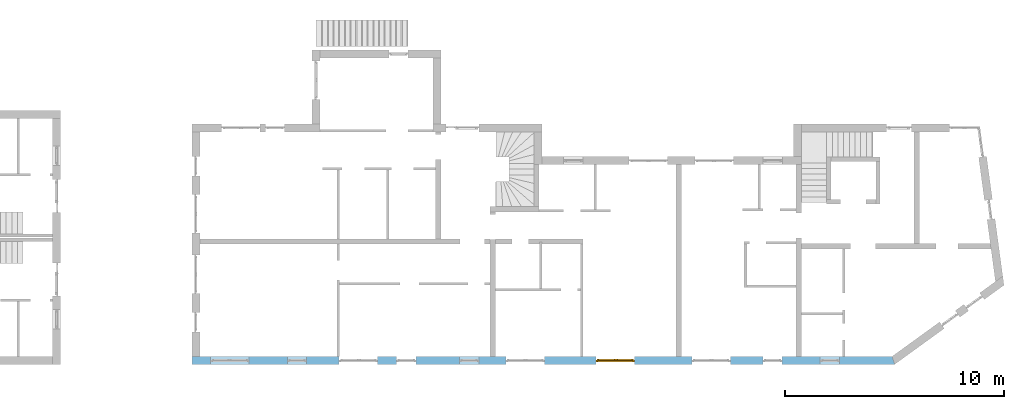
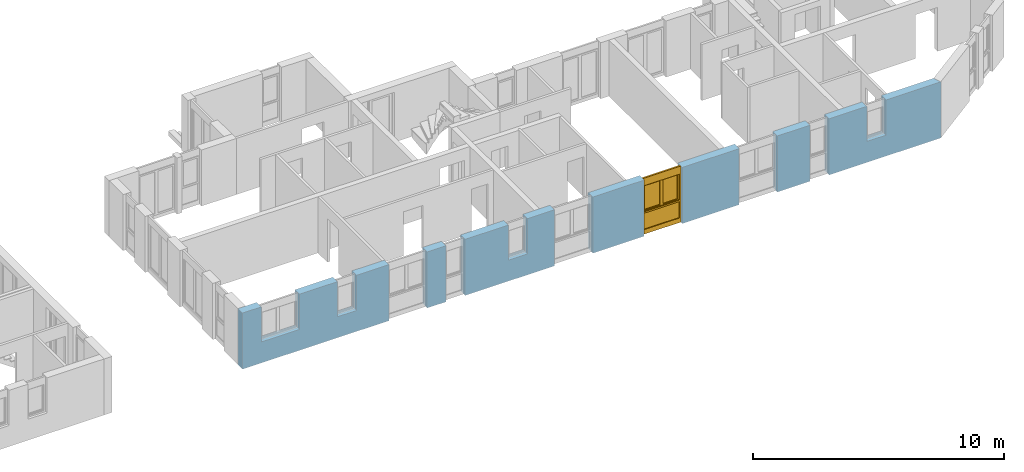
# One storey, part 25 of 41: 1 window, 10 openings, plus 1 element that does not belong to this part.
"""IFC2X3 building model written with IfcOpenShell, lengths in millimetres."""

from ifc_helpers import new_model, entity, si_unit, converted_unit, frame, frame_2d, origin, origin_with_axes, place, context, subcontext, project, spatial, polyline, rectangle, outline, extrude, faceted_brep, material, layer, layer_set, layer_usage, type_object, element, fill, save


model = new_model("IFC2X3")

# Units and contexts
model_context = context("Model", 3, precision=1e-05, world=origin())
body_context = subcontext(model_context, "Body", "Model", "MODEL_VIEW")
ifc_project = project(units=[si_unit("LENGTHUNIT", "METRE", prefix="MILLI"), converted_unit("PLANEANGLEUNIT", "DEGREE", entity("IfcPlaneAngleMeasure", 0.0174532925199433), si_unit("PLANEANGLEUNIT", "RADIAN"), dimensions=[0, 0, 0, 0, 0, 0, 0]), si_unit("AREAUNIT", "SQUARE_METRE"), si_unit("VOLUMEUNIT", "CUBIC_METRE")], contexts=[model_context])

# Building, storey
building_placement = place(None, origin())
building = spatial("IfcBuilding", under=ifc_project, at=building_placement, Name="Gebäude", CompositionType="ELEMENT")
storey_placement = place(building_placement, frame((0.0, 0.0, -200.0), z_axis=(0.0, 0.0, 1.0), x_axis=(1.0, 0.0, 0.0)))
storey = spatial("IfcBuildingStorey", under=building, at=storey_placement, Name="EG.- Grundriss", CompositionType="ELEMENT", Elevation=-200.0)

# Wall, openings, window
ifc_material_1 = material(Name="Poroton")
ifc_layer = layer(ifc_material_1, 365.0000000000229)
ifc_layer_set = layer_set([ifc_layer])
ifc_layer_usage = layer_usage(ifc_layer_set, "AXIS2", "POSITIVE", 0.0)
wall_placement = place(storey_placement, frame((148357.7928067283, 125274.8877324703, 0.0), z_axis=(0.0, 0.0, 1.0), x_axis=(1.0, -2.749268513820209e-11, 0.0)))
wall = element("IfcWallStandardCase", 1, at=wall_placement, inside=storey, material=ifc_layer_usage, Name="<Unnamed Element>", context=body_context, shape_type="SweptSolid", body=[
    extrude(outline(polyline([(0.0, 0.0), (32144.99999877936, 0.0), (32026.74038666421, 365.0000000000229), (-1.003483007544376e-08, 365.0), (0.0, 0.0)])), origin_with_axes(), (0.0, 0.0, 1.0), 2730.0),
])
opening_1_placement = place(wall_placement, frame((28740.29648749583, -1.103025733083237e-10, 1020.0), z_axis=(0.0, 1.0, 0.0), x_axis=(0.0, 0.0, 1.0)))
element("IfcOpeningElement", 2, at=opening_1_placement, cuts=wall, Name="Fensteröffnung", ObjectType="Opening", context=body_context, shape_type="SweptSolid", body=[
    extrude(rectangle(XDim=1710.0, YDim=885.0, at=frame_2d((855.0, 442.5), x_axis=(1.0, 0.0))), origin_with_axes(), (0.0, 0.0, 1.0), 365.0000000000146),
])
opening_2_placement = place(wall_placement, frame((26115.29648749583, -1.048456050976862e-10, 0.0), z_axis=(0.0, 1.0, 0.0), x_axis=(0.0, 0.0, 1.0)))
element("IfcOpeningElement", 3, at=opening_2_placement, cuts=wall, Name="Fensteröffnung", ObjectType="Opening", context=body_context, shape_type="SweptSolid", body=[
    extrude(rectangle(XDim=2730.0, YDim=885.0, at=frame_2d((1365.0, 442.5), x_axis=(1.0, 0.0))), origin_with_axes(), (0.0, 0.0, 1.0), 365.0000000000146),
])
opening_3_placement = place(wall_placement, frame((22865.29648749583, -7.937975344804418e-11, 0.0), z_axis=(0.0, 1.0, 0.0), x_axis=(0.0, 0.0, 1.0)))
element("IfcOpeningElement", 4, at=opening_3_placement, cuts=wall, Name="Fensteröffnung", ObjectType="Opening", context=body_context, shape_type="SweptSolid", body=[
    extrude(rectangle(XDim=2730.0, YDim=1760.0, at=frame_2d((1365.0, 880.0), x_axis=(1.0, 0.0))), origin_with_axes(), (0.0, 0.0, 1.0), 365.0000000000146),
])
opening_4_placement = place(wall_placement, frame((18490.51063065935, -4.984640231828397e-11, 0.0), z_axis=(0.0, 1.0, 0.0), x_axis=(0.0, 0.0, 1.0)))
opening_4 = element("IfcOpeningElement", 5, at=opening_4_placement, cuts=wall, Name="Fensteröffnung", ObjectType="Opening", context=body_context, shape_type="SweptSolid", body=[
    extrude(rectangle(XDim=2730.0, YDim=1760.0, at=frame_2d((1365.0, 880.0), x_axis=(1.0, 0.0))), origin_with_axes(), (0.0, 0.0, 1.0), 365.0000000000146),
])
opening_5_placement = place(wall_placement, frame((14365.26291871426, -7.302655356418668e-11, 0.0), z_axis=(0.0, 1.0, 0.0), x_axis=(0.0, 0.0, 1.0)))
element("IfcOpeningElement", 6, at=opening_5_placement, cuts=wall, Name="Fensteröffnung", ObjectType="Opening", context=body_context, shape_type="SweptSolid", body=[
    extrude(rectangle(XDim=2730.0, YDim=1760.0, at=frame_2d((1365.0, 880.0), x_axis=(1.0, 0.0))), origin_with_axes(), (0.0, 0.0, 1.0), 365.0000000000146),
])
opening_6_placement = place(wall_placement, frame((12240.0, -5.296897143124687e-11, 1020.0), z_axis=(0.0, 1.0, 0.0), x_axis=(0.0, 0.0, 1.0)))
element("IfcOpeningElement", 7, at=opening_6_placement, cuts=wall, Name="Fensteröffnung", ObjectType="Opening", context=body_context, shape_type="SweptSolid", body=[
    extrude(rectangle(XDim=1710.0, YDim=885.0, at=frame_2d((855.0, 442.5), x_axis=(1.0, 0.0))), origin_with_axes(), (0.0, 0.0, 1.0), 365.0000000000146),
])
opening_7_placement = place(wall_placement, frame((9365.0, -3.659806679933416e-11, 0.0), z_axis=(0.0, 1.0, 0.0), x_axis=(0.0, 0.0, 1.0)))
element("IfcOpeningElement", 8, at=opening_7_placement, cuts=wall, Name="Fensteröffnung", ObjectType="Opening", context=body_context, shape_type="SweptSolid", body=[
    extrude(rectangle(XDim=2730.0, YDim=885.0, at=frame_2d((1365.0, 442.5), x_axis=(1.0, 0.0))), origin_with_axes(), (0.0, 0.0, 1.0), 365.0000000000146),
])
opening_8_placement = place(wall_placement, frame((6740.0, -3.114109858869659e-11, 0.0), z_axis=(0.0, 1.0, 0.0), x_axis=(0.0, 0.0, 1.0)))
element("IfcOpeningElement", 9, at=opening_8_placement, cuts=wall, Name="Fensteröffnung", ObjectType="Opening", context=body_context, shape_type="SweptSolid", body=[
    extrude(rectangle(XDim=2730.0, YDim=1760.0, at=frame_2d((1365.0, 880.0), x_axis=(1.0, 0.0))), origin_with_axes(), (0.0, 0.0, 1.0), 365.0000000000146),
])
opening_9_placement = place(wall_placement, frame((4365.0, -7.494236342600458e-12, 1020.0), z_axis=(0.0, 1.0, 0.0), x_axis=(0.0, 0.0, 1.0)))
element("IfcOpeningElement", 10, at=opening_9_placement, cuts=wall, Name="Fensteröffnung", ObjectType="Opening", context=body_context, shape_type="SweptSolid", body=[
    extrude(rectangle(XDim=1710.0, YDim=885.0, at=frame_2d((855.0, 442.5), x_axis=(1.0, 0.0))), origin_with_axes(), (0.0, 0.0, 1.0), 365.0000000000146),
])
opening_10_placement = place(wall_placement, frame((865.0, -2.182787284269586e-13, 1020.0), z_axis=(0.0, 1.0, 0.0), x_axis=(0.0, 0.0, 1.0)))
element("IfcOpeningElement", 11, at=opening_10_placement, cuts=wall, Name="Fensteröffnung", ObjectType="Opening", context=body_context, shape_type="SweptSolid", body=[
    extrude(rectangle(XDim=1710.0, YDim=1760.0, at=frame_2d((854.9999999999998, 880.0), x_axis=(1.0, 0.0))), origin_with_axes(), (0.0, 0.0, 1.0), 365.0000000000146),
])
ifc_material_2 = material()
window_style = type_object("IfcWindowStyle", Name="Fenster", ConstructionType="NOTDEFINED", OperationType="USERDEFINED", ParameterTakesPrecedence=False, Sizeable=False)
window_placement = place(opening_4_placement, frame((0.0, 0.0, 0.0), z_axis=(1.0, 0.0, 0.0), x_axis=(0.0, 1.0, 0.0)))
window = element("IfcWindow", 12, at=window_placement, inside=storey, type_object=window_style, material=ifc_material_2, Name="Fenster", OverallHeight=2730.0, OverallWidth=1760.0, context=body_context, shape_type="Brep", body=[
    faceted_brep([(-1.221113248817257e-08, 199.999999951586, 2730.0), (-1.221113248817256e-08, 199.9999999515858, -2.449293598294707e-15), (69.99999998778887, 199.9999999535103, -2.449293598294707e-15), (69.99999998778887, 199.9999999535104, 2730.0), (-1.001171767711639e-08, 119.9999999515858, 2.449293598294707e-15), (-1.00117176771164e-08, 119.999999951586, 2730.0), (69.99999998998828, 119.9999999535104, 2730.0), (69.99999998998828, 119.9999999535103, 2.449293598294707e-15), (-1.221113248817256e-08, 199.9999999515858, -2.449293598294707e-15), (-1.221113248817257e-08, 199.999999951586, 2730.0), (-1.00117176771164e-08, 119.999999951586, 2730.0), (-1.001171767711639e-08, 119.9999999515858, 2.449293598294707e-15), (69.99999998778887, 199.9999999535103, -2.449293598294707e-15), (-1.221113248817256e-08, 199.9999999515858, -2.449293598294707e-15), (-1.001171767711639e-08, 119.9999999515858, 2.449293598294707e-15), (69.99999998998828, 119.9999999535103, 2.449293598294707e-15), (69.99999998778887, 199.9999999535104, 2730.0), (69.99999998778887, 199.9999999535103, -2.449293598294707e-15), (69.99999998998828, 119.9999999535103, 2.449293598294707e-15), (69.99999998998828, 119.9999999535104, 2730.0), (-1.221113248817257e-08, 199.999999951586, 2730.0), (69.99999998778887, 199.9999999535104, 2730.0), (69.99999998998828, 119.9999999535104, 2730.0), (-1.00117176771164e-08, 119.999999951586, 2730.0)], [[[0, 1, 2, 3]], [[4, 5, 6, 7]], [[8, 9, 10, 11]], [[12, 13, 14, 15]], [[16, 17, 18, 19]], [[20, 21, 22, 23]]], orient=[[False], [False], [False], [False], [False], [False]]),
    faceted_brep([(1689.999999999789, 199.9999999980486, 2730.0), (1689.999999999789, 199.9999999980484, -2.449293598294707e-15), (1759.999999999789, 199.9999999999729, -2.449293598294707e-15), (1759.999999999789, 199.9999999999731, 2730.0), (1690.000000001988, 119.9999999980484, 2.449293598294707e-15), (1690.000000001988, 119.9999999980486, 2730.0), (1760.000000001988, 119.9999999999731, 2730.0), (1760.000000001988, 119.9999999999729, 2.449293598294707e-15), (1689.999999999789, 199.9999999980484, -2.449293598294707e-15), (1689.999999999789, 199.9999999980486, 2730.0), (1690.000000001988, 119.9999999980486, 2730.0), (1690.000000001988, 119.9999999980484, 2.449293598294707e-15), (1759.999999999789, 199.9999999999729, -2.449293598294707e-15), (1689.999999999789, 199.9999999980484, -2.449293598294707e-15), (1690.000000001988, 119.9999999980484, 2.449293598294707e-15), (1760.000000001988, 119.9999999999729, 2.449293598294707e-15), (1759.999999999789, 199.9999999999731, 2730.0), (1759.999999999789, 199.9999999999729, -2.449293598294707e-15), (1760.000000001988, 119.9999999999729, 2.449293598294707e-15), (1760.000000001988, 119.9999999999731, 2730.0), (1689.999999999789, 199.9999999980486, 2730.0), (1759.999999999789, 199.9999999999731, 2730.0), (1760.000000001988, 119.9999999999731, 2730.0), (1690.000000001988, 119.9999999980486, 2730.0)], [[[0, 1, 2, 3]], [[4, 5, 6, 7]], [[8, 9, 10, 11]], [[12, 13, 14, 15]], [[16, 17, 18, 19]], [[20, 21, 22, 23]]], orient=[[False], [False], [False], [False], [False], [False]]),
    faceted_brep([(69.99999998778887, 199.9999999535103, 220.0), (69.99999998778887, 199.9999999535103, -2.449293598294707e-15), (1689.999999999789, 199.9999999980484, -2.449293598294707e-15), (1689.999999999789, 199.9999999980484, 220.0), (69.99999998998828, 119.9999999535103, 2.449293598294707e-15), (69.99999998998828, 119.9999999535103, 220.0), (1690.000000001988, 119.9999999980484, 220.0), (1690.000000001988, 119.9999999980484, 2.449293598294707e-15), (69.99999998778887, 199.9999999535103, -2.449293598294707e-15), (69.99999998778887, 199.9999999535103, 220.0), (69.99999998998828, 119.9999999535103, 220.0), (69.99999998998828, 119.9999999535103, 2.449293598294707e-15), (1689.999999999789, 199.9999999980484, -2.449293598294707e-15), (69.99999998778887, 199.9999999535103, -2.449293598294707e-15), (69.99999998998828, 119.9999999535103, 2.449293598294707e-15), (1690.000000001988, 119.9999999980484, 2.449293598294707e-15), (1689.999999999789, 199.9999999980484, 220.0), (1689.999999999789, 199.9999999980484, -2.449293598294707e-15), (1690.000000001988, 119.9999999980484, 2.449293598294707e-15), (1690.000000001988, 119.9999999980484, 220.0), (69.99999998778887, 199.9999999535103, 220.0), (1689.999999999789, 199.9999999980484, 220.0), (1690.000000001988, 119.9999999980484, 220.0), (69.99999998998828, 119.9999999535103, 220.0)], [[[0, 1, 2, 3]], [[4, 5, 6, 7]], [[8, 9, 10, 11]], [[12, 13, 14, 15]], [[16, 17, 18, 19]], [[20, 21, 22, 23]]], orient=[[False], [False], [False], [False], [False], [False]]),
    faceted_brep([(69.99999998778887, 199.9999999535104, 2730.0), (69.99999998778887, 199.9999999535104, 2360.0), (1689.999999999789, 199.9999999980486, 2360.0), (1689.999999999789, 199.9999999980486, 2730.0), (69.99999998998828, 119.9999999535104, 2360.0), (69.99999998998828, 119.9999999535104, 2730.0), (1690.000000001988, 119.9999999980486, 2730.0), (1690.000000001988, 119.9999999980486, 2360.0), (69.99999998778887, 199.9999999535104, 2360.0), (69.99999998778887, 199.9999999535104, 2730.0), (69.99999998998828, 119.9999999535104, 2730.0), (69.99999998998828, 119.9999999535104, 2360.0), (1689.999999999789, 199.9999999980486, 2360.0), (69.99999998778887, 199.9999999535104, 2360.0), (69.99999998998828, 119.9999999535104, 2360.0), (1690.000000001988, 119.9999999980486, 2360.0), (1689.999999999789, 199.9999999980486, 2730.0), (1689.999999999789, 199.9999999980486, 2360.0), (1690.000000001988, 119.9999999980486, 2360.0), (1690.000000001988, 119.9999999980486, 2730.0), (69.99999998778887, 199.9999999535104, 2730.0), (1689.999999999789, 199.9999999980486, 2730.0), (1690.000000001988, 119.9999999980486, 2730.0), (69.99999998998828, 119.9999999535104, 2730.0)], [[[0, 1, 2, 3]], [[4, 5, 6, 7]], [[8, 9, 10, 11]], [[12, 13, 14, 15]], [[16, 17, 18, 19]], [[20, 21, 22, 23]]], orient=[[False], [False], [False], [False], [False], [False]]),
    faceted_brep([(69.99999998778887, 199.9999999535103, 1090.0), (69.99999998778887, 199.9999999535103, 1020.0), (1689.999999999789, 199.9999999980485, 1020.0), (1689.999999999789, 199.9999999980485, 1090.0), (69.99999998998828, 119.9999999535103, 1020.0), (69.99999998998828, 119.9999999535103, 1090.0), (1690.000000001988, 119.9999999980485, 1090.0), (1690.000000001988, 119.9999999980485, 1020.0), (69.99999998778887, 199.9999999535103, 1020.0), (69.99999998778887, 199.9999999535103, 1090.0), (69.99999998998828, 119.9999999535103, 1090.0), (69.99999998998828, 119.9999999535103, 1020.0), (1689.999999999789, 199.9999999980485, 1020.0), (69.99999998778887, 199.9999999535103, 1020.0), (69.99999998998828, 119.9999999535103, 1020.0), (1690.000000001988, 119.9999999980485, 1020.0), (1689.999999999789, 199.9999999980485, 1090.0), (1689.999999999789, 199.9999999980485, 1020.0), (1690.000000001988, 119.9999999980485, 1020.0), (1690.000000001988, 119.9999999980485, 1090.0), (69.99999998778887, 199.9999999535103, 1090.0), (1689.999999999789, 199.9999999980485, 1090.0), (1690.000000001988, 119.9999999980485, 1090.0), (69.99999998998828, 119.9999999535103, 1090.0)], [[[0, 1, 2, 3]], [[4, 5, 6, 7]], [[8, 9, 10, 11]], [[12, 13, 14, 15]], [[16, 17, 18, 19]], [[20, 21, 22, 23]]], orient=[[False], [False], [False], [False], [False], [False]]),
    faceted_brep([(69.99999998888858, 159.9999999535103, 220.0), (1690.000000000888, 159.9999999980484, 220.0), (1690.000000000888, 159.9999999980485, 1020.0), (69.99999998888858, 159.9999999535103, 1020.0), (69.99999998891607, 158.9999999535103, 220.0), (69.99999998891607, 158.9999999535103, 1020.0), (1690.000000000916, 158.9999999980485, 1020.0), (1690.000000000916, 158.9999999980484, 220.0), (69.99999998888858, 159.9999999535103, 220.0), (69.99999998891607, 158.9999999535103, 220.0), (1690.000000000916, 158.9999999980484, 220.0), (1690.000000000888, 159.9999999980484, 220.0), (1690.000000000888, 159.9999999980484, 220.0), (1690.000000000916, 158.9999999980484, 220.0), (1690.000000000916, 158.9999999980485, 1020.0), (1690.000000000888, 159.9999999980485, 1020.0), (1690.000000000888, 159.9999999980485, 1020.0), (1690.000000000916, 158.9999999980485, 1020.0), (69.99999998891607, 158.9999999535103, 1020.0), (69.99999998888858, 159.9999999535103, 1020.0), (69.99999998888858, 159.9999999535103, 1020.0), (69.99999998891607, 158.9999999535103, 1020.0), (69.99999998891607, 158.9999999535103, 220.0), (69.99999998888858, 159.9999999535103, 220.0)], [[[0, 1, 2, 3]], [[4, 5, 6, 7]], [[8, 9, 10, 11]], [[12, 13, 14, 15]], [[16, 17, 18, 19]], [[20, 21, 22, 23]]], orient=[[False], [False], [False], [False], [False], [False]]),
    faceted_brep([(49.99999998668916, 239.9999999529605, 2380.0), (49.99999998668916, 239.9999999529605, 1070.0), (119.9999999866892, 239.999999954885, 1070.0), (119.9999999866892, 239.999999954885, 2380.0), (49.99999998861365, 169.9999999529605, 1070.0), (49.99999998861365, 169.9999999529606, 2380.0), (119.9999999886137, 169.999999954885, 2380.0), (119.9999999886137, 169.999999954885, 1070.0), (49.99999998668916, 239.9999999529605, 1070.0), (49.99999998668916, 239.9999999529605, 2380.0), (49.99999998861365, 169.9999999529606, 2380.0), (49.99999998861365, 169.9999999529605, 1070.0), (119.9999999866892, 239.999999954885, 1070.0), (49.99999998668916, 239.9999999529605, 1070.0), (49.99999998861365, 169.9999999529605, 1070.0), (119.9999999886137, 169.999999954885, 1070.0), (119.9999999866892, 239.999999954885, 2380.0), (119.9999999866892, 239.999999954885, 1070.0), (119.9999999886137, 169.999999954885, 1070.0), (119.9999999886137, 169.999999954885, 2380.0), (49.99999998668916, 239.9999999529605, 2380.0), (119.9999999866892, 239.999999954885, 2380.0), (119.9999999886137, 169.999999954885, 2380.0), (49.99999998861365, 169.9999999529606, 2380.0)], [[[0, 1, 2, 3]], [[4, 5, 6, 7]], [[8, 9, 10, 11]], [[12, 13, 14, 15]], [[16, 17, 18, 19]], [[20, 21, 22, 23]]], orient=[[False], [False], [False], [False], [False], [False]]),
    faceted_brep([(829.4999999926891, 239.9999999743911, 2380.0), (829.4999999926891, 239.999999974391, 1070.0), (899.4999999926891, 239.9999999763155, 1070.0), (899.4999999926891, 239.9999999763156, 2380.0), (829.4999999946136, 169.999999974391, 1070.0), (829.4999999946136, 169.9999999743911, 2380.0), (899.4999999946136, 169.9999999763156, 2380.0), (899.4999999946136, 169.9999999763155, 1070.0), (829.4999999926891, 239.999999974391, 1070.0), (829.4999999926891, 239.9999999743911, 2380.0), (829.4999999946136, 169.9999999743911, 2380.0), (829.4999999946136, 169.999999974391, 1070.0), (899.4999999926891, 239.9999999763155, 1070.0), (829.4999999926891, 239.999999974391, 1070.0), (829.4999999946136, 169.999999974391, 1070.0), (899.4999999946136, 169.9999999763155, 1070.0), (899.4999999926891, 239.9999999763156, 2380.0), (899.4999999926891, 239.9999999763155, 1070.0), (899.4999999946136, 169.9999999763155, 1070.0), (899.4999999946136, 169.9999999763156, 2380.0), (829.4999999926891, 239.9999999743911, 2380.0), (899.4999999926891, 239.9999999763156, 2380.0), (899.4999999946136, 169.9999999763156, 2380.0), (829.4999999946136, 169.9999999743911, 2380.0)], [[[0, 1, 2, 3]], [[4, 5, 6, 7]], [[8, 9, 10, 11]], [[12, 13, 14, 15]], [[16, 17, 18, 19]], [[20, 21, 22, 23]]], orient=[[False], [False], [False], [False], [False], [False]]),
    faceted_brep([(119.9999999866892, 239.999999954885, 1140.0), (119.9999999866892, 239.999999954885, 1070.0), (829.4999999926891, 239.999999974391, 1070.0), (829.4999999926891, 239.999999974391, 1140.0), (119.9999999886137, 169.999999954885, 1070.0), (119.9999999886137, 169.999999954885, 1140.0), (829.4999999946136, 169.999999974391, 1140.0), (829.4999999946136, 169.999999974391, 1070.0), (119.9999999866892, 239.999999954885, 1070.0), (119.9999999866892, 239.999999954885, 1140.0), (119.9999999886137, 169.999999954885, 1140.0), (119.9999999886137, 169.999999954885, 1070.0), (829.4999999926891, 239.999999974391, 1070.0), (119.9999999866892, 239.999999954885, 1070.0), (119.9999999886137, 169.999999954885, 1070.0), (829.4999999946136, 169.999999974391, 1070.0), (829.4999999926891, 239.999999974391, 1140.0), (829.4999999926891, 239.999999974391, 1070.0), (829.4999999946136, 169.999999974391, 1070.0), (829.4999999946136, 169.999999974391, 1140.0), (119.9999999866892, 239.999999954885, 1140.0), (829.4999999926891, 239.999999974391, 1140.0), (829.4999999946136, 169.999999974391, 1140.0), (119.9999999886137, 169.999999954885, 1140.0)], [[[0, 1, 2, 3]], [[4, 5, 6, 7]], [[8, 9, 10, 11]], [[12, 13, 14, 15]], [[16, 17, 18, 19]], [[20, 21, 22, 23]]], orient=[[False], [False], [False], [False], [False], [False]]),
    faceted_brep([(119.9999999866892, 239.999999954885, 2380.0), (119.9999999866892, 239.999999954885, 2310.0), (829.4999999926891, 239.9999999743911, 2310.0), (829.4999999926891, 239.9999999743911, 2380.0), (119.9999999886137, 169.999999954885, 2310.0), (119.9999999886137, 169.999999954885, 2380.0), (829.4999999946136, 169.9999999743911, 2380.0), (829.4999999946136, 169.9999999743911, 2310.0), (119.9999999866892, 239.999999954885, 2310.0), (119.9999999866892, 239.999999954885, 2380.0), (119.9999999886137, 169.999999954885, 2380.0), (119.9999999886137, 169.999999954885, 2310.0), (829.4999999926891, 239.9999999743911, 2310.0), (119.9999999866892, 239.999999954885, 2310.0), (119.9999999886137, 169.999999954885, 2310.0), (829.4999999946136, 169.9999999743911, 2310.0), (829.4999999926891, 239.9999999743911, 2380.0), (829.4999999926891, 239.9999999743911, 2310.0), (829.4999999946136, 169.9999999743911, 2310.0), (829.4999999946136, 169.9999999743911, 2380.0), (119.9999999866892, 239.999999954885, 2380.0), (829.4999999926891, 239.9999999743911, 2380.0), (829.4999999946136, 169.9999999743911, 2380.0), (119.9999999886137, 169.999999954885, 2380.0)], [[[0, 1, 2, 3]], [[4, 5, 6, 7]], [[8, 9, 10, 11]], [[12, 13, 14, 15]], [[16, 17, 18, 19]], [[20, 21, 22, 23]]], orient=[[False], [False], [False], [False], [False], [False]]),
    faceted_brep([(900.4999999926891, 239.9999999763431, 2380.0), (900.4999999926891, 239.999999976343, 1070.0), (970.4999999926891, 239.9999999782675, 1070.0), (970.4999999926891, 239.9999999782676, 2380.0), (900.4999999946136, 169.999999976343, 1070.0), (900.4999999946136, 169.9999999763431, 2380.0), (970.4999999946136, 169.9999999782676, 2380.0), (970.4999999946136, 169.9999999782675, 1070.0), (900.4999999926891, 239.999999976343, 1070.0), (900.4999999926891, 239.9999999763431, 2380.0), (900.4999999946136, 169.9999999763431, 2380.0), (900.4999999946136, 169.999999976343, 1070.0), (970.4999999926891, 239.9999999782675, 1070.0), (900.4999999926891, 239.999999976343, 1070.0), (900.4999999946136, 169.999999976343, 1070.0), (970.4999999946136, 169.9999999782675, 1070.0), (970.4999999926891, 239.9999999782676, 2380.0), (970.4999999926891, 239.9999999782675, 1070.0), (970.4999999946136, 169.9999999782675, 1070.0), (970.4999999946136, 169.9999999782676, 2380.0), (900.4999999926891, 239.9999999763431, 2380.0), (970.4999999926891, 239.9999999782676, 2380.0), (970.4999999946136, 169.9999999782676, 2380.0), (900.4999999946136, 169.9999999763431, 2380.0)], [[[0, 1, 2, 3]], [[4, 5, 6, 7]], [[8, 9, 10, 11]], [[12, 13, 14, 15]], [[16, 17, 18, 19]], [[20, 21, 22, 23]]], orient=[[False], [False], [False], [False], [False], [False]]),
    faceted_brep([(1639.999999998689, 239.9999999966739, 2380.0), (1639.999999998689, 239.9999999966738, 1070.0), (1709.999999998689, 239.9999999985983, 1070.0), (1709.999999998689, 239.9999999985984, 2380.0), (1640.000000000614, 169.9999999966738, 1070.0), (1640.000000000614, 169.9999999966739, 2380.0), (1710.000000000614, 169.9999999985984, 2380.0), (1710.000000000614, 169.9999999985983, 1070.0), (1639.999999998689, 239.9999999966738, 1070.0), (1639.999999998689, 239.9999999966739, 2380.0), (1640.000000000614, 169.9999999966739, 2380.0), (1640.000000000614, 169.9999999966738, 1070.0), (1709.999999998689, 239.9999999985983, 1070.0), (1639.999999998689, 239.9999999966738, 1070.0), (1640.000000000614, 169.9999999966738, 1070.0), (1710.000000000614, 169.9999999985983, 1070.0), (1709.999999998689, 239.9999999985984, 2380.0), (1709.999999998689, 239.9999999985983, 1070.0), (1710.000000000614, 169.9999999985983, 1070.0), (1710.000000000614, 169.9999999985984, 2380.0), (1639.999999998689, 239.9999999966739, 2380.0), (1709.999999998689, 239.9999999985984, 2380.0), (1710.000000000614, 169.9999999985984, 2380.0), (1640.000000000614, 169.9999999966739, 2380.0)], [[[0, 1, 2, 3]], [[4, 5, 6, 7]], [[8, 9, 10, 11]], [[12, 13, 14, 15]], [[16, 17, 18, 19]], [[20, 21, 22, 23]]], orient=[[False], [False], [False], [False], [False], [False]]),
    faceted_brep([(970.4999999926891, 239.9999999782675, 1140.0), (970.4999999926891, 239.9999999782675, 1070.0), (1639.999999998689, 239.9999999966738, 1070.0), (1639.999999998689, 239.9999999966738, 1140.0), (970.4999999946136, 169.9999999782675, 1070.0), (970.4999999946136, 169.9999999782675, 1140.0), (1640.000000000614, 169.9999999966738, 1140.0), (1640.000000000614, 169.9999999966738, 1070.0), (970.4999999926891, 239.9999999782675, 1070.0), (970.4999999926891, 239.9999999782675, 1140.0), (970.4999999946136, 169.9999999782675, 1140.0), (970.4999999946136, 169.9999999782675, 1070.0), (1639.999999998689, 239.9999999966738, 1070.0), (970.4999999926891, 239.9999999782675, 1070.0), (970.4999999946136, 169.9999999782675, 1070.0), (1640.000000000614, 169.9999999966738, 1070.0), (1639.999999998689, 239.9999999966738, 1140.0), (1639.999999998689, 239.9999999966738, 1070.0), (1640.000000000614, 169.9999999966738, 1070.0), (1640.000000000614, 169.9999999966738, 1140.0), (970.4999999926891, 239.9999999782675, 1140.0), (1639.999999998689, 239.9999999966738, 1140.0), (1640.000000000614, 169.9999999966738, 1140.0), (970.4999999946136, 169.9999999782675, 1140.0)], [[[0, 1, 2, 3]], [[4, 5, 6, 7]], [[8, 9, 10, 11]], [[12, 13, 14, 15]], [[16, 17, 18, 19]], [[20, 21, 22, 23]]], orient=[[False], [False], [False], [False], [False], [False]]),
    faceted_brep([(970.4999999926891, 239.9999999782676, 2380.0), (970.4999999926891, 239.9999999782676, 2310.0), (1639.999999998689, 239.9999999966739, 2310.0), (1639.999999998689, 239.9999999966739, 2380.0), (970.4999999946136, 169.9999999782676, 2310.0), (970.4999999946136, 169.9999999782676, 2380.0), (1640.000000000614, 169.9999999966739, 2380.0), (1640.000000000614, 169.9999999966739, 2310.0), (970.4999999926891, 239.9999999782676, 2310.0), (970.4999999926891, 239.9999999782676, 2380.0), (970.4999999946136, 169.9999999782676, 2380.0), (970.4999999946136, 169.9999999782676, 2310.0), (1639.999999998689, 239.9999999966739, 2310.0), (970.4999999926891, 239.9999999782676, 2310.0), (970.4999999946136, 169.9999999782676, 2310.0), (1640.000000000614, 169.9999999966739, 2310.0), (1639.999999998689, 239.9999999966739, 2380.0), (1639.999999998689, 239.9999999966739, 2310.0), (1640.000000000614, 169.9999999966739, 2310.0), (1640.000000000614, 169.9999999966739, 2380.0), (970.4999999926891, 239.9999999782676, 2380.0), (1639.999999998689, 239.9999999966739, 2380.0), (1640.000000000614, 169.9999999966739, 2380.0), (970.4999999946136, 169.9999999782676, 2380.0)], [[[0, 1, 2, 3]], [[4, 5, 6, 7]], [[8, 9, 10, 11]], [[12, 13, 14, 15]], [[16, 17, 18, 19]], [[20, 21, 22, 23]]], orient=[[False], [False], [False], [False], [False], [False]]),
    faceted_brep([(119.9999999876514, 204.999999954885, 1140.0), (829.4999999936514, 204.9999999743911, 1140.0), (829.4999999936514, 204.9999999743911, 2310.0), (119.9999999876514, 204.9999999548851, 2310.0), (119.9999999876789, 203.999999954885, 1140.0), (119.9999999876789, 203.9999999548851, 2310.0), (829.4999999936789, 203.9999999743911, 2310.0), (829.4999999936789, 203.9999999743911, 1140.0), (119.9999999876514, 204.999999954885, 1140.0), (119.9999999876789, 203.999999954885, 1140.0), (829.4999999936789, 203.9999999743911, 1140.0), (829.4999999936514, 204.9999999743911, 1140.0), (829.4999999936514, 204.9999999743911, 1140.0), (829.4999999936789, 203.9999999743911, 1140.0), (829.4999999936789, 203.9999999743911, 2310.0), (829.4999999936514, 204.9999999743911, 2310.0), (829.4999999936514, 204.9999999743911, 2310.0), (829.4999999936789, 203.9999999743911, 2310.0), (119.9999999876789, 203.9999999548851, 2310.0), (119.9999999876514, 204.9999999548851, 2310.0), (119.9999999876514, 204.9999999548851, 2310.0), (119.9999999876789, 203.9999999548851, 2310.0), (119.9999999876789, 203.999999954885, 1140.0), (119.9999999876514, 204.999999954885, 1140.0)], [[[0, 1, 2, 3]], [[4, 5, 6, 7]], [[8, 9, 10, 11]], [[12, 13, 14, 15]], [[16, 17, 18, 19]], [[20, 21, 22, 23]]], orient=[[False], [False], [False], [False], [False], [False]]),
    faceted_brep([(970.4999999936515, 204.9999999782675, 1140.0), (1639.999999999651, 204.9999999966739, 1140.0), (1639.999999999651, 204.9999999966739, 2310.0), (970.4999999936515, 204.9999999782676, 2310.0), (970.499999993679, 203.9999999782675, 1140.0), (970.499999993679, 203.9999999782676, 2310.0), (1639.999999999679, 203.9999999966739, 2310.0), (1639.999999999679, 203.9999999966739, 1140.0), (970.4999999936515, 204.9999999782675, 1140.0), (970.499999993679, 203.9999999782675, 1140.0), (1639.999999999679, 203.9999999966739, 1140.0), (1639.999999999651, 204.9999999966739, 1140.0), (1639.999999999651, 204.9999999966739, 1140.0), (1639.999999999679, 203.9999999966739, 1140.0), (1639.999999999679, 203.9999999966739, 2310.0), (1639.999999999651, 204.9999999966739, 2310.0), (1639.999999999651, 204.9999999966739, 2310.0), (1639.999999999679, 203.9999999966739, 2310.0), (970.499999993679, 203.9999999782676, 2310.0), (970.4999999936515, 204.9999999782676, 2310.0), (970.4999999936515, 204.9999999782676, 2310.0), (970.499999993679, 203.9999999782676, 2310.0), (970.499999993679, 203.9999999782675, 1140.0), (970.4999999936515, 204.9999999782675, 1140.0)], [[[0, 1, 2, 3]], [[4, 5, 6, 7]], [[8, 9, 10, 11]], [[12, 13, 14, 15]], [[16, 17, 18, 19]], [[20, 21, 22, 23]]], orient=[[False], [False], [False], [False], [False], [False]]),
])
fill(opening_4, window)

save(model, "model.ifc")
